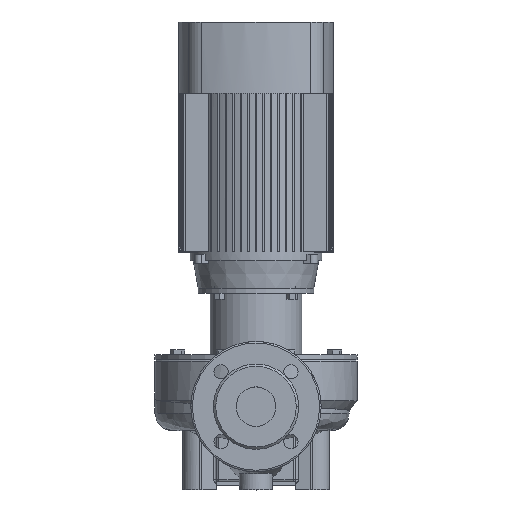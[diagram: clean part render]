
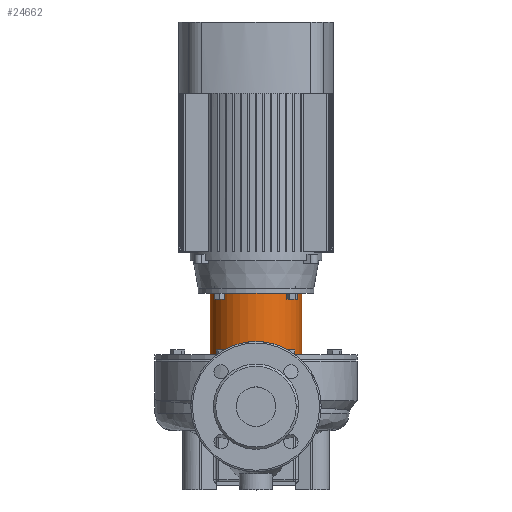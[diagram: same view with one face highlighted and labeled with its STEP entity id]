
A CAD part, top view. The second image highlights one B-rep face of the part: STEP entity #24662.
In plain terms, the highlighted cylindrical face has radius 58 mm (diameter 116 mm), a partial arc.
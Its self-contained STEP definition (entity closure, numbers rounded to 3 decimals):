
#339 = EDGE_CURVE ( 'NONE', #3412, #15330, #13244, .T. ) ;
#2616 = FACE_OUTER_BOUND ( 'NONE', #9455, .T. ) ;
#3357 = ORIENTED_EDGE ( 'NONE', *, *, #23140, .F. ) ;
#3412 = VERTEX_POINT ( 'NONE', #20575 ) ;
#5151 = AXIS2_PLACEMENT_3D ( 'NONE', #17552, #13387, #13908 ) ;
#5555 = CARTESIAN_POINT ( 'NONE',  ( 0., 0., -84. ) ) ;
#9367 = LINE ( 'NONE', #17428, #23573 ) ;
#9455 = EDGE_LOOP ( 'NONE', ( #20984, #26207, #20960, #3357 ) ) ;
#10238 = VERTEX_POINT ( 'NONE', #11239 ) ;
#10808 = DIRECTION ( 'NONE',  ( 1., 0., 0. ) ) ;
#11239 = CARTESIAN_POINT ( 'NONE',  ( 58., 0., -84. ) ) ;
#13183 = EDGE_CURVE ( 'NONE', #3412, #10238, #18252, .T. ) ;
#13244 = LINE ( 'NONE', #25606, #20835 ) ;
#13387 = DIRECTION ( 'NONE',  ( 0., 0., 1. ) ) ;
#13908 = DIRECTION ( 'NONE',  ( 1., 0., 0. ) ) ;
#14356 = DIRECTION ( 'NONE',  ( 0., 0., 1. ) ) ;
#15330 = VERTEX_POINT ( 'NONE', #21126 ) ;
#17163 = CIRCLE ( 'NONE', #5151, 58. ) ;
#17428 = CARTESIAN_POINT ( 'NONE',  ( 58., 0., 14.36 ) ) ;
#17552 = CARTESIAN_POINT ( 'NONE',  ( 0., 0., -6. ) ) ;
#18252 = CIRCLE ( 'NONE', #21676, 58. ) ;
#19656 = DIRECTION ( 'NONE',  ( 1., 0., 0. ) ) ;
#20258 = VERTEX_POINT ( 'NONE', #25778 ) ;
#20529 = CARTESIAN_POINT ( 'NONE',  ( 0., 0., 14.36 ) ) ;
#20575 = CARTESIAN_POINT ( 'NONE',  ( -58., 0., -84. ) ) ;
#20835 = VECTOR ( 'NONE', #21432, 1000. ) ;
#20960 = ORIENTED_EDGE ( 'NONE', *, *, #21780, .T. ) ;
#20984 = ORIENTED_EDGE ( 'NONE', *, *, #339, .F. ) ;
#21126 = CARTESIAN_POINT ( 'NONE',  ( -58., 0., -6. ) ) ;
#21321 = DIRECTION ( 'NONE',  ( 0., 0., 1. ) ) ;
#21432 = DIRECTION ( 'NONE',  ( 0., 0., 1. ) ) ;
#21674 = DIRECTION ( 'NONE',  ( 0., 0., 1. ) ) ;
#21676 = AXIS2_PLACEMENT_3D ( 'NONE', #5555, #21674, #19656 ) ;
#21780 = EDGE_CURVE ( 'NONE', #10238, #20258, #9367, .T. ) ;
#23140 = EDGE_CURVE ( 'NONE', #15330, #20258, #17163, .T. ) ;
#23573 = VECTOR ( 'NONE', #21321, 1000. ) ;
#23662 = AXIS2_PLACEMENT_3D ( 'NONE', #20529, #14356, #10808 ) ;
#24662 = ADVANCED_FACE ( 'NONE', ( #2616 ), #25588, .T. ) ;
#25588 = CYLINDRICAL_SURFACE ( 'NONE', #23662, 58. ) ;
#25606 = CARTESIAN_POINT ( 'NONE',  ( -58., 0., 14.36 ) ) ;
#25778 = CARTESIAN_POINT ( 'NONE',  ( 58., 0., -6. ) ) ;
#26207 = ORIENTED_EDGE ( 'NONE', *, *, #13183, .T. ) ;
